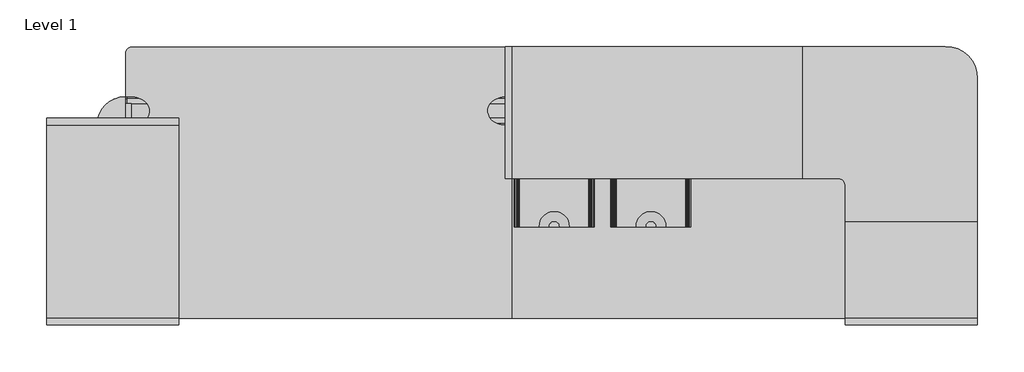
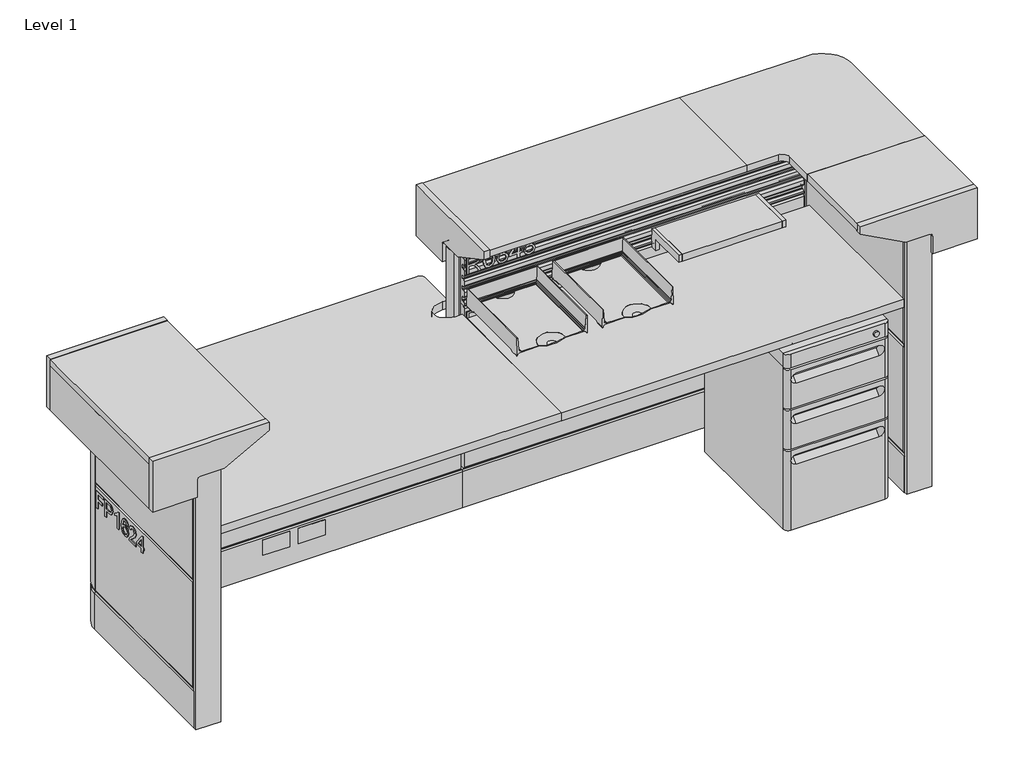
# One storey, incomplete: 49 furniture elements.
"""IFC4 building model written with IfcOpenShell, lengths in millimetres."""

from ifc_helpers import new_model, si_unit, origin, place, context, project, spatial, transform, mapped, element, save
from components import furniture_7da167ec, furniture_7324295f, furniture_df6beef7, furniture_dabdfb29, furniture_8828cb60, furniture_d1243616, furniture_9dcc6860, furniture_a86162da, furniture_8bbf410e, furniture_e496f4a3, furniture_82e04d0f, furniture_4f5ec0d2, furniture_25a45a0c, furniture_0245ad47, furniture_adfb5ce8, furniture_2b4b025d, furniture_083f9362, furniture_85814acf, furniture_d119ae5b, furniture_4c5c4c9d, furniture_24d_left_781ecdd2, furniture_24d_right_b8f5cfed, furniture_90_deg_19f469a9, furniture_90_deg_corner_ab4f0109, end_cap_54c5994d, lam_24d_48w_cabdf88d, lam_24d_48w_d90dfd80, left_ebece1d7

model = new_model("IFC4")

# Units and contexts
model_context = context("Model", 3, world=origin())
ifc_project = project(units=[si_unit("LENGTHUNIT", "METRE", prefix="MILLI")], contexts=[model_context])

# Site, building, storey
site = spatial("IfcSite", under=ifc_project)
building = spatial("IfcBuilding", under=site)
storey = spatial("IfcBuildingStorey", under=building, Name="Level 1", Elevation=0.0)

# Furniture
placement = place(None, origin())
furniture_shape = furniture_7da167ec(model_context)
element("IfcFurniture", 1, ObjectType="HermanMiller_Quadrant_G5110_B-PullFreestandingPedestal : 26-1/2\"H x 20\"D x 15\"W BBF", at=placement, inside=storey, context=model_context, shape_type="MappedRepresentation", body=[
    mapped(furniture_shape, transform((2289.63728, -360.89336, 0.0), x_axis=(1.0, 0.0, 0.0), y_axis=(0.0, 1.0, 0.0), z_axis=(0.0, 0.0, 1.0))),
])
furniture_2_shape = furniture_7324295f(model_context)
element("IfcFurniture", 2, ObjectType="HermanMiller_Ethospace_E2830_SqEdgeCounterTop : 7-1/2\"H x 16-3/8\"D x 36\"W", at=placement, inside=storey, context=model_context, shape_type="MappedRepresentation", body=[
    mapped(furniture_2_shape, transform((1764.37544, 39.72814, 0.0), x_axis=(1.0, 0.0, 0.0), y_axis=(0.0, 1.0, 0.0), z_axis=(0.0, 0.0, 1.0))),
])
furniture_3_shape = furniture_df6beef7(model_context)
element("IfcFurniture", 3, ObjectType="HermanMiller_Ethospace_E2827_CounterTopSupport : 48\"W W/Light", at=placement, inside=storey, context=model_context, shape_type="MappedRepresentation", body=[
    mapped(furniture_3_shape, transform((1916.77544, 31.79064, 0.0), x_axis=(1.0, 0.0, 0.0), y_axis=(0.0, 1.0, 0.0), z_axis=(0.0, 0.0, 1.0))),
])
furniture_4_shape = furniture_dabdfb29(model_context)
element("IfcFurniture", 4, ObjectType="HermanMiller_Ethospace_E2830_SqEdgeCounterTop : 7-1/2\"H x 16-3/8\"D x 12\"W", at=placement, inside=storey, context=model_context, shape_type="MappedRepresentation", body=[
    mapped(furniture_4_shape, transform((2566.06294, -457.75372, 0.0), x_axis=(0.0, -1.0, 0.0), y_axis=(1.0, 0.0, 0.0), z_axis=(0.0, 0.0, 1.0))),
])
furniture_5_shape = furniture_8828cb60(model_context)
element("IfcFurniture", 5, ObjectType="HermanMiller_Ethospace_E2827_CounterTopSupport : 24\"W W/Light", at=placement, inside=storey, context=model_context, shape_type="MappedRepresentation", body=[
    mapped(furniture_5_shape, transform((2558.12544, -304.75936, 0.0), x_axis=(0.0, -1.0, 0.0), y_axis=(1.0, 0.0, 0.0), z_axis=(0.0, 0.0, 1.0))),
])
element("IfcFurniture", 6, ObjectType="HermanMiller_Ethospace_E2827_CounterTopSupport : 24\"W W/Light", at=placement, inside=storey, context=model_context, shape_type="MappedRepresentation", body=[
    mapped(furniture_5_shape, transform((56.35498, -305.39436, 0.0), x_axis=(0.0, 1.0, 0.0), y_axis=(-1.0, 0.0, 0.0), z_axis=(0.0, 0.0, 1.0))),
])
furniture_6_shape = furniture_d1243616(model_context)
element("IfcFurniture", 7, ObjectType="HermanMiller_Ethospace_E1420_FaceTile : Ptd 16\"H x 24\"W", at=placement, inside=storey, context=model_context, shape_type="MappedRepresentation", body=[
    mapped(furniture_6_shape, transform((2601.7804261, -305.35372, 0.0), x_axis=(0.0, 1.0, 0.0), y_axis=(-1.0, 0.0, 0.0), z_axis=(0.0, 0.0, 1.0))),
])
element("IfcFurniture", 8, ObjectType="HermanMiller_Ethospace_E1420_FaceTile : Ptd 16\"H x 24\"W", at=placement, inside=storey, context=model_context, shape_type="MappedRepresentation", body=[
    mapped(furniture_6_shape, transform((12.6999939, -304.8, 0.0), x_axis=(0.0, -1.0, 0.0), y_axis=(1.0, 0.0, 0.0), z_axis=(0.0, 0.0, 1.0))),
])
element("IfcFurniture", 9, ObjectType="HermanMiller_Ethospace_E1420_FaceTile : Ptd 16\"H x 24\"W", at=placement, inside=storey, context=model_context, shape_type="MappedRepresentation", body=[
    mapped(furniture_6_shape, transform((75.4075261, -304.8, 0.0), x_axis=(0.0, 1.0, 0.0), y_axis=(-1.0, 0.0, 0.0), z_axis=(0.0, 0.0, 1.0))),
])
element("IfcFurniture", 10, ObjectType="HermanMiller_Ethospace_E1420_FaceTile : Ptd 16\"H x 24\"W", at=placement, inside=storey, context=model_context, shape_type="MappedRepresentation", body=[
    mapped(furniture_6_shape, transform((2539.8679139, -304.75936, 0.0), x_axis=(0.0, -1.0, 0.0), y_axis=(1.0, 0.0, 0.0), z_axis=(0.0, 0.0, 1.0))),
])
furniture_7_shape = furniture_9dcc6860(model_context)
element("IfcFurniture", 11, ObjectType="HermanMiller_Ethospace_E1420_FaceTile : Ptd 16\"H x 24\"W", at=placement, inside=storey, context=model_context, shape_type="MappedRepresentation", body=[
    mapped(furniture_7_shape, transform((2601.7804261, -305.35372, 0.0), x_axis=(0.0, 1.0, 0.0), y_axis=(-1.0, 0.0, 0.0), z_axis=(0.0, 0.0, 1.0))),
])
element("IfcFurniture", 12, ObjectType="HermanMiller_Ethospace_E1420_FaceTile : Ptd 16\"H x 24\"W", at=placement, inside=storey, context=model_context, shape_type="MappedRepresentation", body=[
    mapped(furniture_7_shape, transform((12.6999939, -304.8, 0.0), x_axis=(0.0, -1.0, 0.0), y_axis=(1.0, 0.0, 0.0), z_axis=(0.0, 0.0, 1.0))),
])
element("IfcFurniture", 13, ObjectType="HermanMiller_Ethospace_E1420_FaceTile : Ptd 16\"H x 24\"W", at=placement, inside=storey, context=model_context, shape_type="MappedRepresentation", body=[
    mapped(furniture_7_shape, transform((75.4075261, -304.8, 0.0), x_axis=(0.0, 1.0, 0.0), y_axis=(-1.0, 0.0, 0.0), z_axis=(0.0, 0.0, 1.0))),
])
element("IfcFurniture", 14, ObjectType="HermanMiller_Ethospace_E1420_FaceTile : Ptd 16\"H x 24\"W", at=placement, inside=storey, context=model_context, shape_type="MappedRepresentation", body=[
    mapped(furniture_7_shape, transform((2539.8679139, -304.75936, 0.0), x_axis=(0.0, -1.0, 0.0), y_axis=(1.0, 0.0, 0.0), z_axis=(0.0, 0.0, 1.0))),
])
furniture_8_shape = furniture_a86162da(model_context)
element("IfcFurniture", 15, ObjectType="HermanMiller_Ethospace_E2830_SqEdgeCounterTop : 7-1/2\"H x 16-3/8\"D x 24\"W", at=placement, inside=storey, context=model_context, shape_type="MappedRepresentation", body=[
    mapped(furniture_8_shape, transform((48.41748, -304.8, 0.0), x_axis=(0.0, 1.0, 0.0), y_axis=(-1.0, 0.0, 0.0), z_axis=(0.0, 0.0, 1.0))),
])
furniture_9_shape = furniture_8bbf410e(model_context)
element("IfcFurniture", 16, ObjectType="HermanMiller_Ethospace_E1250_FinishedEnd : Std Ptd 38\"H", at=placement, inside=storey, context=model_context, shape_type="MappedRepresentation", body=[
    mapped(furniture_9_shape, transform((50.2462056, -614.9706018, 0.0), x_axis=(0.0, -1.0, 0.0), y_axis=(1.0, 0.0, 0.0), z_axis=(0.0, 0.0, 1.0))),
])
element("IfcFurniture", 17, ObjectType="HermanMiller_Ethospace_E1250_FinishedEnd : Std Ptd 38\"H", at=placement, inside=storey, context=model_context, shape_type="MappedRepresentation", body=[
    mapped(furniture_9_shape, transform((2577.4141256, -614.9299618, 0.0), x_axis=(0.0, -1.0, 0.0), y_axis=(1.0, 0.0, 0.0), z_axis=(0.0, 0.0, 1.0))),
])
furniture_10_shape = furniture_e496f4a3(model_context)
element("IfcFurniture", 18, ObjectType="HermanMiller_Ethospace_E1220_90DegreeConnector : Vnyl 38\"H 2-Way Rds-N", at=placement, inside=storey, context=model_context, shape_type="MappedRepresentation", body=[
    mapped(furniture_10_shape, transform((51.8227301, 19.0499981, 0.0), x_axis=(0.0, 1.0, 0.0), y_axis=(-1.0, 0.0, 0.0), z_axis=(0.0, 0.0, 1.0))),
])
element("IfcFurniture", 19, ObjectType="HermanMiller_Ethospace_E1220_90DegreeConnector : Vnyl 38\"H 2-Way Rds-N", at=placement, inside=storey, context=model_context, shape_type="MappedRepresentation", body=[
    mapped(furniture_10_shape, transform((2545.4254381, 36.3254299, 0.0), x_axis=(1.0, 0.0, 0.0), y_axis=(0.0, 1.0, 0.0), z_axis=(0.0, 0.0, 1.0))),
])
furniture_11_shape = furniture_82e04d0f(model_context)
element("IfcFurniture", 20, ObjectType="HermanMiller_Ethospace_E1109_Frame : 38\"H x 24\"W-H", at=placement, inside=storey, context=model_context, shape_type="MappedRepresentation", body=[
    mapped(furniture_11_shape, transform((43.65752, -304.8, 0.0), x_axis=(0.0, 1.0, 0.0), y_axis=(-1.0, 0.0, 0.0), z_axis=(0.0, 0.0, 1.0))),
])
element("IfcFurniture", 21, ObjectType="HermanMiller_Ethospace_E1109_Frame : 38\"H x 24\"W-H", at=placement, inside=storey, context=model_context, shape_type="MappedRepresentation", body=[
    mapped(furniture_11_shape, transform((2570.82544, -305.35372, 0.0), x_axis=(0.0, 1.0, 0.0), y_axis=(-1.0, 0.0, 0.0), z_axis=(0.0, 0.0, 1.0))),
])
furniture_12_shape = furniture_4f5ec0d2(model_context)
element("IfcFurniture", 22, ObjectType="HermanMiller_Ethospace_E1420_FaceTile : Ptd 08\"H x 48\"W", at=placement, inside=storey, context=model_context, shape_type="MappedRepresentation", body=[
    mapped(furniture_12_shape, transform((1916.77544, 12.7406339, 0.0), x_axis=(1.0, 0.0, 0.0), y_axis=(0.0, 1.0, 0.0), z_axis=(0.0, 0.0, 1.0))),
])
furniture_13_shape = furniture_25a45a0c(model_context)
element("IfcFurniture", 23, ObjectType="HermanMiller_Ethospace_E1425_RailTile : 08\"H x 48\"W", at=placement, inside=storey, context=model_context, shape_type="MappedRepresentation", body=[
    mapped(furniture_13_shape, transform((1916.77544, 22.26564, 0.0), x_axis=(1.0, 0.0, 0.0), y_axis=(0.0, 1.0, 0.0), z_axis=(0.0, 0.0, 1.0))),
])
furniture_14_shape = furniture_0245ad47(model_context)
element("IfcFurniture", 24, ObjectType="HermanMiller_Ethospace_E1420_FaceTile : Ptd 16\"H x 48\"W", at=placement, inside=storey, context=model_context, shape_type="MappedRepresentation", body=[
    mapped(furniture_14_shape, transform((1916.77544, 13.5331139, 0.0), x_axis=(1.0, 0.0, 0.0), y_axis=(0.0, 1.0, 0.0), z_axis=(0.0, 0.0, 1.0))),
])
element("IfcFurniture", 25, ObjectType="HermanMiller_Ethospace_E1420_FaceTile : Ptd 16\"H x 48\"W", at=placement, inside=storey, context=model_context, shape_type="MappedRepresentation", body=[
    mapped(furniture_14_shape, transform((1916.77544, 76.2406461, 0.0), x_axis=(-1.0, 0.0, 0.0), y_axis=(0.0, -1.0, 0.0), z_axis=(0.0, 0.0, 1.0))),
])
furniture_15_shape = furniture_adfb5ce8(model_context)
element("IfcFurniture", 26, ObjectType="HermanMiller_Ethospace_E1420_FaceTile : Ptd 16\"H x 48\"W", at=placement, inside=storey, context=model_context, shape_type="MappedRepresentation", body=[
    mapped(furniture_15_shape, transform((1916.77544, 76.2406461, 0.0), x_axis=(-1.0, 0.0, 0.0), y_axis=(0.0, -1.0, 0.0), z_axis=(0.0, 0.0, 1.0))),
])
furniture_16_shape = furniture_2b4b025d(model_context)
element("IfcFurniture", 27, ObjectType="HermanMiller_Ethospace_E1109_Frame : 38\"H x 48\"W-H", at=placement, inside=storey, context=model_context, shape_type="MappedRepresentation", body=[
    mapped(furniture_16_shape, transform((1916.77544, 44.49064, 0.0), x_axis=(-1.0, 0.0, 0.0), y_axis=(0.0, -1.0, 0.0), z_axis=(0.0, 0.0, 1.0))),
])
furniture_17_shape = furniture_083f9362(model_context)
element("IfcFurniture", 28, ObjectType="HermanMiller_Ethospace_E1420_FaceTile : Ptd 20\"H x 48\"W", at=placement, inside=storey, context=model_context, shape_type="MappedRepresentation", body=[
    mapped(furniture_17_shape, transform((697.70752, 76.2762061, 0.0), x_axis=(-1.0, 0.0, 0.0), y_axis=(0.0, -1.0, 0.0), z_axis=(0.0, 0.0, 1.0))),
])
element("IfcFurniture", 29, ObjectType="HermanMiller_Ethospace_E1420_FaceTile : Ptd 20\"H x 48\"W", at=placement, inside=storey, context=model_context, shape_type="MappedRepresentation", body=[
    mapped(furniture_17_shape, transform((697.57544, 12.7406339, 0.0), x_axis=(1.0, 0.0, 0.0), y_axis=(0.0, 1.0, 0.0), z_axis=(0.0, 0.0, 1.0))),
])
furniture_18_shape = furniture_85814acf(model_context)
element("IfcFurniture", 30, ObjectType="HermanMiller_Ethospace_E1116_FrameTransactionWorkSurface : 38\"H x 48\"W-H", at=placement, inside=storey, context=model_context, shape_type="MappedRepresentation", body=[
    mapped(furniture_18_shape, transform((697.57544, 44.49064, 0.0), x_axis=(1.0, 0.0, 0.0), y_axis=(0.0, 1.0, 0.0), z_axis=(0.0, 0.0, 1.0))),
])
furniture_19_shape = furniture_d119ae5b(model_context)
element("IfcFurniture", 31, ObjectType="HermanMiller_ThrivePortfolio_Y7216_PaperTray : 3\"H x 12\"D x 10\"W", at=placement, inside=storey, context=model_context, shape_type="MappedRepresentation", body=[
    mapped(furniture_19_shape, transform((1440.12412, -166.95928, 0.0), x_axis=(1.0, 0.0, 0.0), y_axis=(0.0, 1.0, 0.0), z_axis=(0.0, 0.0, 1.0))),
])
element("IfcFurniture", 32, ObjectType="HermanMiller_ThrivePortfolio_Y7216_PaperTray : 3\"H x 12\"D x 10\"W", at=placement, inside=storey, context=model_context, shape_type="MappedRepresentation", body=[
    mapped(furniture_19_shape, transform((1744.92412, -166.95928, 0.0), x_axis=(1.0, 0.0, 0.0), y_axis=(0.0, 1.0, 0.0), z_axis=(0.0, 0.0, 1.0))),
])
furniture_20_shape = furniture_4c5c4c9d(model_context)
element("IfcFurniture", 33, ObjectType="HermanMiller_ThrivePortfolio_Y7310_Mini-Shelf : 15\"W", at=placement, inside=storey, context=model_context, shape_type="MappedRepresentation", body=[
    mapped(furniture_20_shape, transform((2170.77544, 0.04064, 0.0), x_axis=(1.0, 0.0, 0.0), y_axis=(0.0, 1.0, 0.0), z_axis=(0.0, 0.0, 1.0))),
])
furniture_24d_left_shape = furniture_24d_left_781ecdd2(model_context)
element("IfcFurniture", 34, ObjectType="HermanMiller_Ethospace_E2393_WorkSurfaceSupport : 24D Left", at=placement, inside=storey, context=model_context, shape_type="MappedRepresentation", body=[
    mapped(furniture_24d_left_shape, transform((1308.69944, -232.2703, 0.0), x_axis=(1.0, 0.0, 0.0), y_axis=(0.0, 1.0, 0.0), z_axis=(0.0, 0.0, 1.0))),
])
element("IfcFurniture", 35, ObjectType="HermanMiller_Ethospace_E2393_WorkSurfaceSupport : 24D Left", at=placement, inside=storey, context=model_context, shape_type="MappedRepresentation", body=[
    mapped(furniture_24d_left_shape, transform((89.62898, -231.73436, 0.0), x_axis=(1.0, 0.0, 0.0), y_axis=(0.0, 1.0, 0.0), z_axis=(0.0, 0.0, 1.0))),
])
furniture_24d_right_shape = furniture_24d_right_b8f5cfed(model_context)
element("IfcFurniture", 36, ObjectType="HermanMiller_Ethospace_E2393_WorkSurfaceSupport : 24D Right", at=placement, inside=storey, context=model_context, shape_type="MappedRepresentation", body=[
    mapped(furniture_24d_right_shape, transform((2524.85144, -232.2703, 0.0), x_axis=(1.0, 0.0, 0.0), y_axis=(0.0, 1.0, 0.0), z_axis=(0.0, 0.0, 1.0))),
])
element("IfcFurniture", 37, ObjectType="HermanMiller_Ethospace_E2393_WorkSurfaceSupport : 24D Right", at=placement, inside=storey, context=model_context, shape_type="MappedRepresentation", body=[
    mapped(furniture_24d_right_shape, transform((1305.78098, -231.73436, 0.0), x_axis=(1.0, 0.0, 0.0), y_axis=(0.0, 1.0, 0.0), z_axis=(0.0, 0.0, 1.0))),
])
furniture_90_deg_shape = furniture_90_deg_19f469a9(model_context)
element("IfcFurniture", 38, ObjectType="HermanMiller_Ethospace_E2828_CounterTopSupportFiller : 90 Deg", at=placement, inside=storey, context=model_context, shape_type="MappedRepresentation", body=[
    mapped(furniture_90_deg_shape, transform((2570.82544, 31.79064, 0.0), x_axis=(1.0, 0.0, 0.0), y_axis=(0.0, 1.0, 0.0), z_axis=(0.0, 0.0, 1.0))),
])
furniture_90_deg_corner_shape = furniture_90_deg_corner_ab4f0109(model_context)
element("IfcFurniture", 39, ObjectType="HermanMiller_Ethospace_E2831_SqEdgeCounterTopCorner : 90 Deg Corner", at=placement, inside=storey, context=model_context, shape_type="MappedRepresentation", body=[
    mapped(furniture_90_deg_corner_shape, transform((2570.82544, 26.415647, 0.0), x_axis=(1.0, 0.0, 0.0), y_axis=(0.0, 1.0, 0.0), z_axis=(0.0, 0.0, 1.0))),
])
end_cap_shape = end_cap_54c5994d(model_context)
element("IfcFurniture", 40, ObjectType="HermanMiller_Ethospace_E2829_CounterTopSupportEndCap : End Cap", at=placement, inside=storey, context=model_context, shape_type="MappedRepresentation", body=[
    mapped(end_cap_shape, transform((1364.32544, 31.79064, 0.0), x_axis=(1.0, 0.0, 0.0), y_axis=(0.0, 1.0, 0.0), z_axis=(0.0, 0.0, 1.0))),
])
element("IfcFurniture", 41, ObjectType="HermanMiller_Ethospace_E2829_CounterTopSupportEndCap : End Cap", at=placement, inside=storey, context=model_context, shape_type="MappedRepresentation", body=[
    mapped(end_cap_shape, transform((2583.52544, -552.40936, 0.0), x_axis=(0.0, 1.0, 0.0), y_axis=(-1.0, 0.0, 0.0), z_axis=(0.0, 0.0, 1.0))),
])
element("IfcFurniture", 42, ObjectType="HermanMiller_Ethospace_E2829_CounterTopSupportEndCap : End Cap", at=placement, inside=storey, context=model_context, shape_type="MappedRepresentation", body=[
    mapped(end_cap_shape, transform((30.95752, -553.04436, 0.0), x_axis=(0.0, -1.0, 0.0), y_axis=(1.0, 0.0, 0.0), z_axis=(0.0, 0.0, 1.0))),
])
element("IfcFurniture", 43, ObjectType="HermanMiller_Ethospace_E2829_CounterTopSupportEndCap : End Cap", at=placement, inside=storey, context=model_context, shape_type="MappedRepresentation", body=[
    mapped(end_cap_shape, transform((30.95752, -57.74436, 0.0), x_axis=(0.0, -1.0, 0.0), y_axis=(1.0, 0.0, 0.0), z_axis=(0.0, 0.0, 1.0))),
])
lam_24d_48w_shape = lam_24d_48w_cabdf88d(model_context)
element("IfcFurniture", 44, ObjectType="HermanMiller_Ethospace_EWS10_F_Sq-EdgeRectangularSurface_FrameAttached : Lam 24D 48W", at=placement, inside=storey, context=model_context, shape_type="MappedRepresentation", body=[
    mapped(lam_24d_48w_shape, transform((1771.3238404, -784.7867812, 0.0), x_axis=(1.0, 0.0, 0.0), y_axis=(0.0, 1.0, 0.0), z_axis=(0.0, 0.0, 1.0))),
])
lam_24d_48w_2_shape = lam_24d_48w_d90dfd80(model_context)
element("IfcFurniture", 45, ObjectType="HermanMiller_Ethospace_EWS70_F_Sq-EdgeTransactionWorkSurface_FrameAttached : Lam 24D 48W", at=placement, inside=storey, context=model_context, shape_type="MappedRepresentation", body=[
    mapped(lam_24d_48w_2_shape, transform((697.70498, -305.33086, 0.0), x_axis=(1.0, 0.0, 0.0), y_axis=(0.0, 1.0, 0.0), z_axis=(0.0, 0.0, 1.0))),
])
left_shape = left_ebece1d7(model_context)
element("IfcFurniture", 46, ObjectType="HermanMiller_Ethospace_E2833_SqEdgeCounterTopEndCap : Left", at=placement, inside=storey, context=model_context, shape_type="MappedRepresentation", body=[
    mapped(left_shape, transform((1296.3605962, 39.72814, 0.0), x_axis=(1.0, 0.0, 0.0), y_axis=(0.0, 1.0, 0.0), z_axis=(0.0, 0.0, 1.0))),
])
element("IfcFurniture", 47, ObjectType="HermanMiller_Ethospace_E2833_SqEdgeCounterTopEndCap : Left", at=placement, inside=storey, context=model_context, shape_type="MappedRepresentation", body=[
    mapped(left_shape, transform((48.41748, -620.4148438, 0.0), x_axis=(0.0, 1.0, 0.0), y_axis=(-1.0, 0.0, 0.0), z_axis=(0.0, 0.0, 1.0))),
])
element("IfcFurniture", 48, ObjectType="HermanMiller_Ethospace_E2833_SqEdgeCounterTopEndCap : Right", at=placement, inside=storey, context=model_context, shape_type="MappedRepresentation", body=[
    mapped(left_shape, transform((2566.06294, -620.3742037, 0.0), x_axis=(0.0, -1.0, 0.0), y_axis=(1.0, 0.0, 0.0), z_axis=(0.0, 0.0, 1.0))),
])
element("IfcFurniture", 49, ObjectType="HermanMiller_Ethospace_E2833_SqEdgeCounterTopEndCap : Right", at=placement, inside=storey, context=model_context, shape_type="MappedRepresentation", body=[
    mapped(left_shape, transform((48.41748, 10.8148437, 0.0), x_axis=(0.0, 1.0, 0.0), y_axis=(-1.0, 0.0, 0.0), z_axis=(0.0, 0.0, 1.0))),
])

save(model, "model.ifc")
